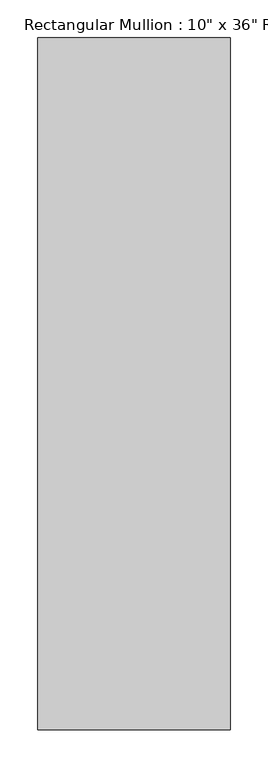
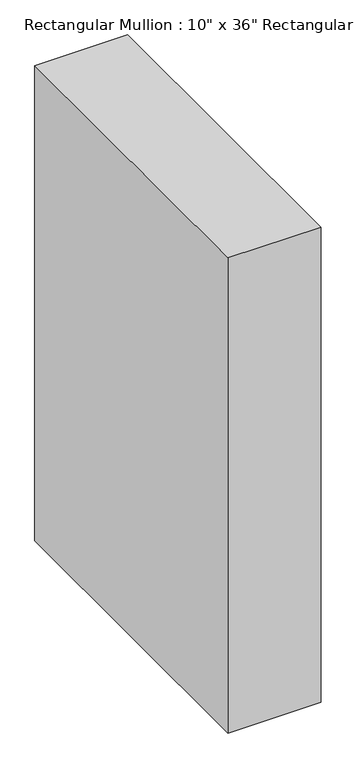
"""IFC4 building model written with IfcOpenShell, lengths in millimetres: member geometry."""

from ifc_helpers import new_model, si_unit, frame, origin, place, context, project, spatial, polyline, outline, extrude, source, transform, mapped, element, save


def member_efdc39e9(model_context):
    return source(origin(), model_context, "Body", "SweptSolid", [
        extrude(outline(polyline([(0.0, 850.9), (0.0, -63.5), (-254.0, -63.5), (-254.0, 850.9), (0.0, 850.9)])), frame((0.0, 0.0, -1371.6), z_axis=(0.0, 0.0, 1.0), x_axis=(1.0, 0.0, 0.0)), (0.0, 0.0, 1.0), 1371.6),
    ])


if __name__ == "__main__":
    model = new_model("IFC4")
    model_context = context("Model", 3, world=origin())
    ifc_project = project(units=[si_unit("LENGTHUNIT", "METRE", prefix="MILLI")], contexts=[model_context])
    site = spatial("IfcSite", under=ifc_project)
    building = spatial("IfcBuilding", under=site)
    placement = place(None, origin())
    member_shape = member_efdc39e9(model_context)
    element("IfcMember", 1, ObjectType="Rectangular Mullion : 10\" x 36\" Rectangular", at=placement, inside=building, context=model_context, shape_type="MappedRepresentation", body=[
        mapped(member_shape, transform((0.0, 0.0, 0.0), x_axis=(1.0, 0.0, 0.0), y_axis=(0.0, 1.0, 0.0), z_axis=(0.0, 0.0, 1.0))),
    ])
    save(model, "model.ifc")
